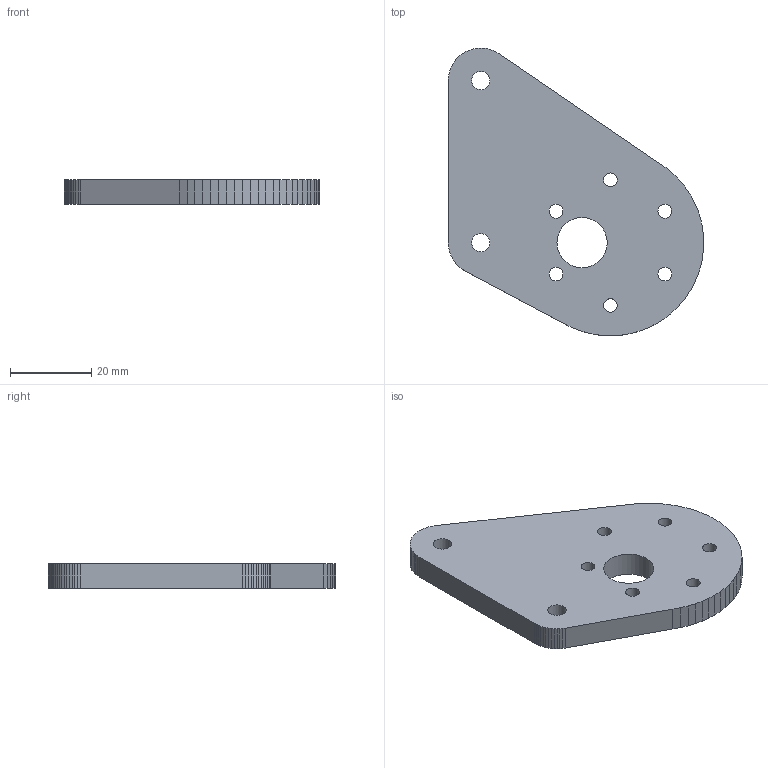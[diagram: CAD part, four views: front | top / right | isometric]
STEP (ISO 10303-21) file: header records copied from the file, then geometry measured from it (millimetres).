
FILE_DESCRIPTION(('Open CASCADE Model'),'2;1');
FILE_NAME('Open CASCADE Shape Model','2026-10-06T09:41:54',('Author'),( 'Open CASCADE'),'Open CASCADE STEP processor 7.8','Open CASCADE 7.8' ,'Unknown');
FILE_SCHEMA(('AUTOMOTIVE_DESIGN { 1 0 10303 214 1 1 1 1 }'));
Length unit declared in the file: millimetre
Products named in the file (1): Open CASCADE STEP translator 7.8 5
Bounding box: 63 x 71 x 6 mm (x, y, z)
Volume: 17126.7 mm3; surface area: 7774.5 mm2
Topology: 1 solids, 1 shells, 86 faces, 252 edges, 168 vertices
Faces by surface type: plane 77, cylinder 9
Full cylindrical faces by diameter (mm): 3.4 x6, 4.5 x2, 12.4 x1
Entity records: 6190 total; most frequent: CARTESIAN_POINT 1119, DIRECTION 930, LINE 720, VECTOR 720, ORIENTED_EDGE 504, PCURVE 504, DEFINITIONAL_REPRESENTATION 504, EDGE_CURVE 252
